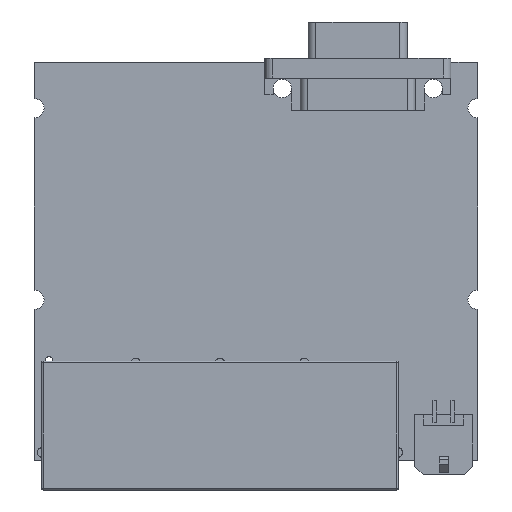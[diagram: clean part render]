
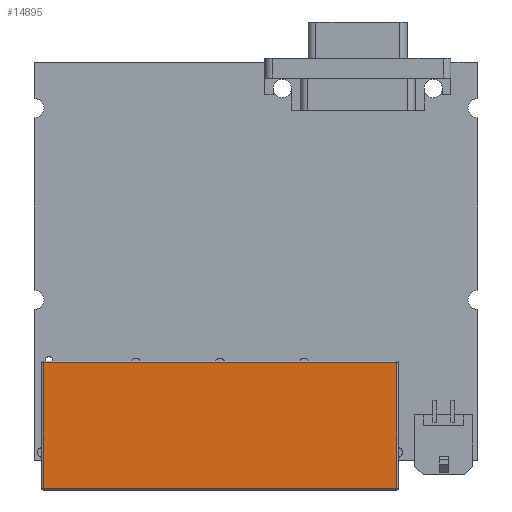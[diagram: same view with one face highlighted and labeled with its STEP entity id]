
A CAD part, top view. The second image highlights one B-rep face of the part: STEP entity #14895.
In plain terms, the highlighted planar face has unit normal (0, 0, 1).
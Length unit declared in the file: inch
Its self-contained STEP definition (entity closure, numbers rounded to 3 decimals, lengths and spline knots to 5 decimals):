
#4741=DIRECTION('',(0.,1.,0.));
#4742=VECTOR('',#4741,0.82);
#4743=CARTESIAN_POINT('',(0.9185,-1.48,0.605));
#4744=LINE('',#4743,#4742);
#4745=DIRECTION('',(-1.,0.,0.));
#4746=VECTOR('',#4745,2.307);
#4747=CARTESIAN_POINT('',(0.9185,-1.48,0.605));
#4748=LINE('',#4747,#4746);
#4749=DIRECTION('',(0.,1.,0.));
#4750=VECTOR('',#4749,0.82);
#4751=CARTESIAN_POINT('',(-1.3885,-1.48,0.605));
#4752=LINE('',#4751,#4750);
#4753=DIRECTION('',(1.,0.,0.));
#4754=VECTOR('',#4753,2.307);
#4755=CARTESIAN_POINT('',(-1.3885,-0.66,0.605));
#4756=LINE('',#4755,#4754);
#8091=CARTESIAN_POINT('',(0.9185,-1.48,0.605));
#8092=CARTESIAN_POINT('',(0.9185,-0.66,0.605));
#8093=VERTEX_POINT('',#8091);
#8094=VERTEX_POINT('',#8092);
#8097=CARTESIAN_POINT('',(-1.3885,-1.48,0.605));
#8098=VERTEX_POINT('',#8097);
#8099=CARTESIAN_POINT('',(-1.3885,-0.66,0.605));
#8100=VERTEX_POINT('',#8099);
#14881=CARTESIAN_POINT('',(0.9285,-0.65,0.605));
#14882=DIRECTION('',(0.,0.,1.));
#14883=DIRECTION('',(-1.,0.,0.));
#14884=AXIS2_PLACEMENT_3D('',#14881,#14882,#14883);
#14885=PLANE('',#14884);
#14886=ORIENTED_EDGE('',*,*,#14872,.F.);
#14888=ORIENTED_EDGE('',*,*,#14887,.T.);
#14890=ORIENTED_EDGE('',*,*,#14889,.T.);
#14892=ORIENTED_EDGE('',*,*,#14891,.T.);
#14893=EDGE_LOOP('',(#14886,#14888,#14890,#14892));
#14894=FACE_OUTER_BOUND('',#14893,.F.);
#14895=ADVANCED_FACE('',(#14894),#14885,.T.);
#14872=EDGE_CURVE('',#8093,#8094,#4744,.T.);
#14887=EDGE_CURVE('',#8093,#8098,#4748,.T.);
#14889=EDGE_CURVE('',#8098,#8100,#4752,.T.);
#14891=EDGE_CURVE('',#8100,#8094,#4756,.T.);
